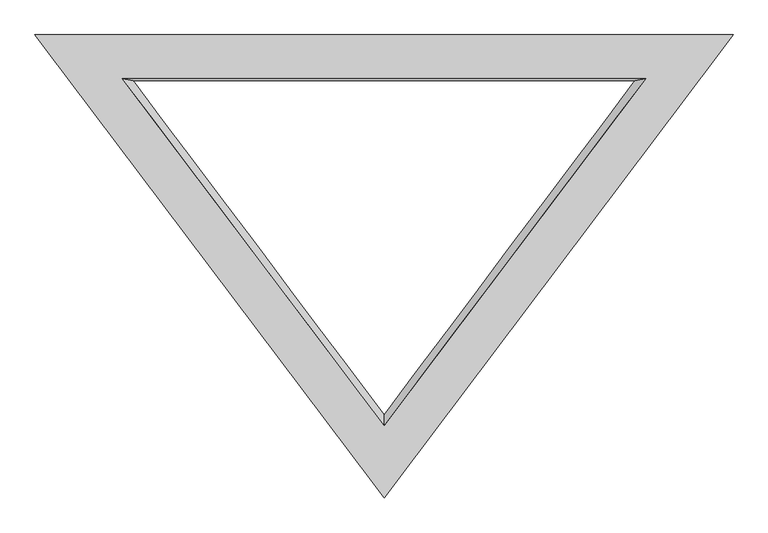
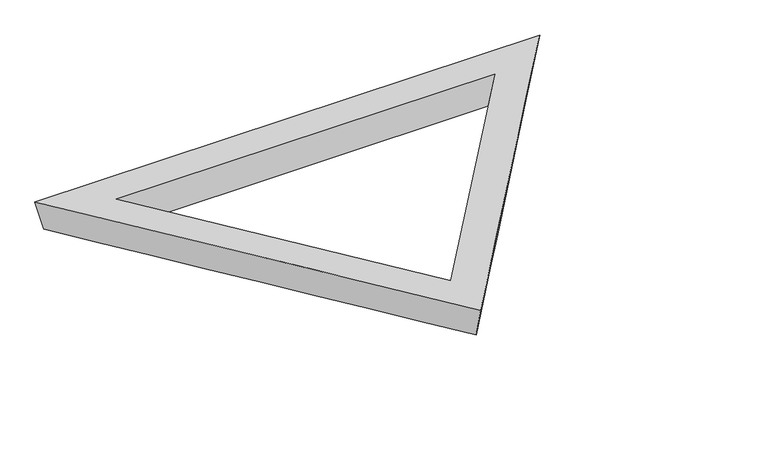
"""IFC4 building model written with IfcOpenShell, lengths in millimetres: plate geometry."""

from ifc_helpers import new_model, si_unit, frame, origin, place, context, project, spatial, source, transform, mapped, element, save
from ifc_brep_helpers import plane_surface, spline_surface, advanced_brep


def plate_51fc7117(model_context):
    return source(origin(), model_context, "Body", "AdvancedBrep", [
        advanced_brep(
        [(4927.4062988, 5576.4059526, 0.0), (4877.8995185, 5586.7077969, 196.6333943), (6096.0, 3970.3307663, 197.2902962), (6096.0, 4019.3114392, 0.0), (7314.1004815, 5586.7077969, 196.6333943), (7264.5937012, 5576.4059526, 0.0), (6096.0, 3680.7880947, 0.0), (7671.1550774, 5779.6059526, 0.0), (7721.6713147, 5789.9077801, 196.5508131), (6096.0, 3632.6984099, 197.4275113), (4520.8449226, 5779.6059526, 0.0), (4470.3286853, 5789.9077801, 196.5508131)],
        [
            (0, 1),
            (1, 2),
            (2, 3),
            (3, 0),
            (2, 4),
            (4, 5),
            (5, 3),
            (0, 5),
            (4, 1),
            (6, 7),
            (7, 8),
            (8, 9),
            (9, 6),
            (7, 10),
            (10, 11),
            (11, 8),
            (9, 11),
            (10, 6),
        ],
        [
            spline_surface(1, 1, [[(4927.4062988, 5576.4059526, 0.0), (6096.0, 4019.3114392, 0.0)], [(4877.8995185, 5586.7077969, 196.6333943), (6096.0, 3970.3307663, 197.2902962)]], [2, 2], [2, 2], [0.0, 1.0], [0.0, 1.0]),
            spline_surface(1, 1, [[(6096.0, 4019.3114392, 0.0), (7264.5937012, 5576.4059526, 0.0)], [(6096.0, 3970.3307663, 197.2902962), (7314.1004815, 5586.7077969, 196.6333943)]], [2, 2], [2, 2], [0.0, 1.0], [0.0, 1.0]),
            plane_surface(frame((6096.0, 5576.4059526, 0.0), z_axis=(0.0, -0.9986304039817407, 0.05231936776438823), x_axis=(-1.0, 0.0, 0.0))),
            spline_surface(1, 1, [[(6096.0, 3680.7880947, 0.0), (6096.0, 3632.6984099, 197.4275113)], [(7671.1550774, 5779.6059526, 0.0), (7721.6713147, 5789.9077801, 196.5508131)]], [2, 2], [2, 2], [0.0, 1.0], [0.0, 1.0]),
            plane_surface(frame((6096.0, 5779.6059526, 0.0), z_axis=(0.0, 0.9986292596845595, -0.052341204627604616), x_axis=(-1.0, 0.0, 0.0))),
            spline_surface(1, 1, [[(4520.8449226, 5779.6059526, 0.0), (4470.3286853, 5789.9077801, 196.5508131)], [(6096.0, 3680.7880947, 0.0), (6096.0, 3632.6984099, 197.4275113)]], [2, 2], [2, 2], [0.0, 1.0], [0.0, 1.0]),
            plane_surface(frame((6096.0, 5070.83799, 196.8430458), z_axis=(0.0, 0.0004064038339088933, 0.9999999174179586), x_axis=(0.6018380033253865, -0.7986181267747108, 0.00032456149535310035))),
            plane_surface(frame((6096.0, 5080.0, 0.0), z_axis=(0.0, 0.0, -1.0), x_axis=(-0.6002540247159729, 0.7998094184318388, 0.0))),
        ],
        [
            (0, [[1, 2, 3, 4]]),
            (1, [[-3, 5, 6, 7]]),
            (2, [[-1, 8, -6, 9]]),
            (3, [[10, 11, 12, 13]]),
            (4, [[-11, 14, 15, 16]]),
            (5, [[-13, 17, -15, 18]]),
            (6, [[-12, -16, -17], [-2, -9, -5]]),
            (7, [[-10, -18, -14], [-4, -7, -8]]),
        ],
    ),
    ])


if __name__ == "__main__":
    model = new_model("IFC4")
    model_context = context("Model", 3, world=origin())
    ifc_project = project(units=[si_unit("LENGTHUNIT", "METRE", prefix="MILLI")], contexts=[model_context])
    site = spatial("IfcSite", under=ifc_project)
    building = spatial("IfcBuilding", under=site)
    placement = place(None, origin())
    plate_shape = plate_51fc7117(model_context)
    element("IfcPlate", 1, ObjectType="tn_cpanel_patbase_triangle_flat_seamless_frame_02_cylinder : tn_cpanel_pattern_mullion_t8\"xh8\"", at=placement, inside=building, context=model_context, shape_type="MappedRepresentation", body=[
        mapped(plate_shape, transform((0.0, 0.0, 0.0), x_axis=(1.0, 0.0, 0.0), y_axis=(0.0, 1.0, 0.0), z_axis=(0.0, 0.0, 1.0))),
    ])
    save(model, "model.ifc")
